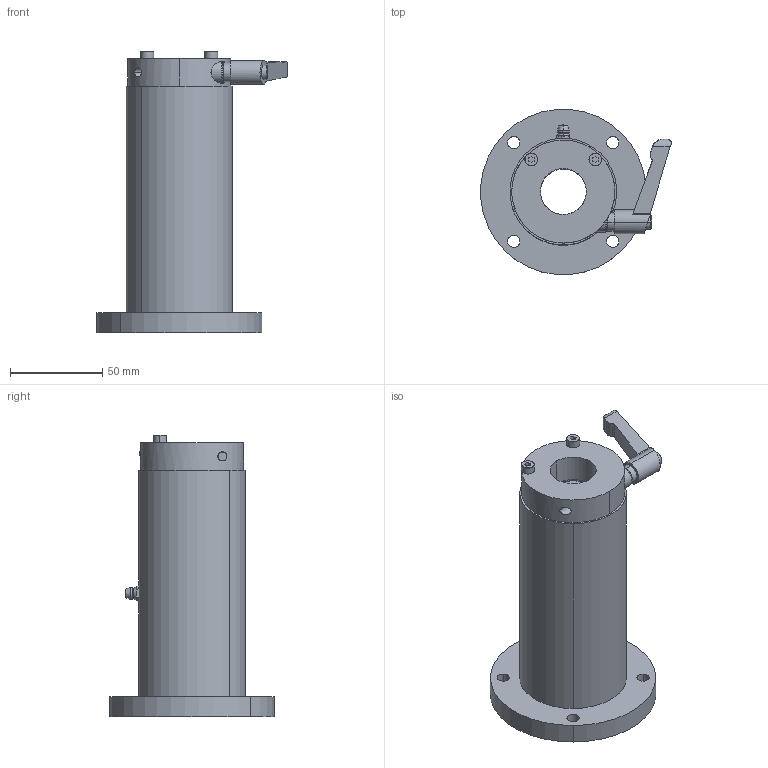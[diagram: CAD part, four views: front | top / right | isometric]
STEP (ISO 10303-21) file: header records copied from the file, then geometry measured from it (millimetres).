
FILE_DESCRIPTION (( 'STEP AP214' ), '1' );
FILE_NAME ('LFW25-OH-C.STEP', '2023-06-27T02:05:15', ( '' ), ( '' ), 'SwSTEP 2.0', 'SolidWorks 2019', '' );
FILE_SCHEMA (( 'AUTOMOTIVE_DESIGN' ));
Length unit declared in the file: millimetre
Products named in the file (3): “ÁSCK2515CO-S4.5; LFW25-OH-C; LFW25-OH
Assembly tree (2 placements, depth 2):
  LFW25-OH-C
    LFW25-OH
    “ÁSCK2515CO-S4.5
Bounding box: 103.43 x 89.66 x 153 mm (x, y, z)
Volume: 355976.4 mm3; surface area: 68726.6 mm2
Topology: 3 solids, 9 shells, 226 faces, 566 edges, 355 vertices
Faces by surface type: cylinder 80, plane 67, bspline 47, cone 20, torus 8, sphere 4
Entity records: 10261 total; most frequent: CARTESIAN_POINT 2262, DIRECTION 1180, ORIENTED_EDGE 1128, EDGE_CURVE 564, AXIS2_PLACEMENT_3D 498, VERTEX_POINT 354, CIRCLE 314, EDGE_LOOP 272
